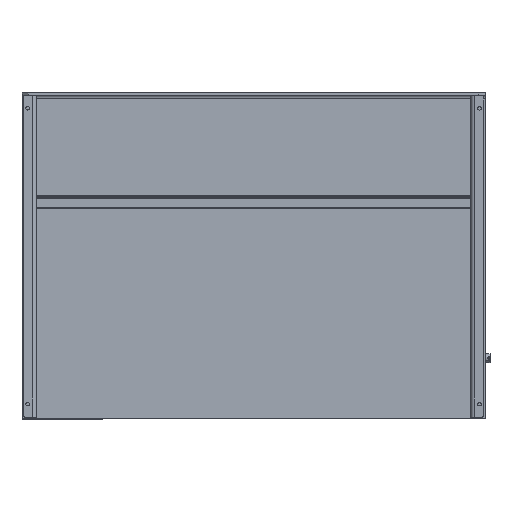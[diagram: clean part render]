
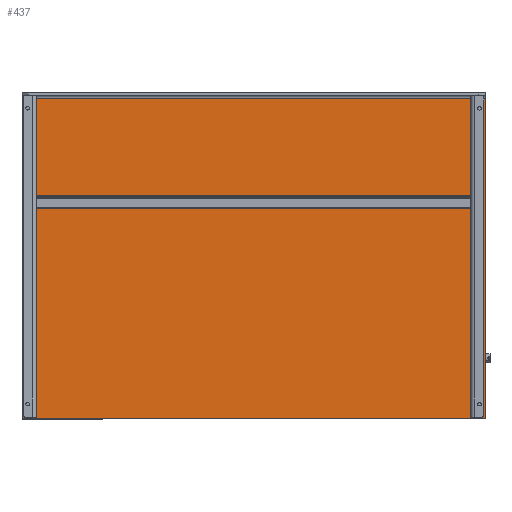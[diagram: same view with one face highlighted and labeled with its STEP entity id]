
A CAD part, front view. The second image highlights one B-rep face of the part: STEP entity #437.
In plain terms, the highlighted planar face has unit normal (0, -1, 0).
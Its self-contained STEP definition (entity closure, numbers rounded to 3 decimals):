
#307 = CARTESIAN_POINT ( 'NONE',  ( 25.053, 3.337, 21.662 ) ) ;
#437 = ADVANCED_FACE ( 'NONE', ( #25251 ), #93138, .T. ) ;
#5592 = CARTESIAN_POINT ( 'NONE',  ( -46.947, 3.337, -28.119 ) ) ;
#5843 = DIRECTION ( 'NONE',  ( 0., 0., 1. ) ) ;
#6912 = VERTEX_POINT ( 'NONE', #5592 ) ;
#6918 = CARTESIAN_POINT ( 'NONE',  ( -46.947, 3.337, -28.119 ) ) ;
#12129 = VECTOR ( 'NONE', #5843, 39.37 ) ;
#12467 = EDGE_CURVE ( 'NONE', #73190, #73950, #86768, .T. ) ;
#14368 = DIRECTION ( 'NONE',  ( -1., 0., 0. ) ) ;
#19237 = EDGE_CURVE ( 'NONE', #23229, #73190, #35492, .T. ) ;
#19376 = EDGE_CURVE ( 'NONE', #73950, #6912, #43606, .T. ) ;
#23229 = VERTEX_POINT ( 'NONE', #79469 ) ;
#24002 = VECTOR ( 'NONE', #14368, 39.37 ) ;
#24420 = CARTESIAN_POINT ( 'NONE',  ( 25.053, 3.337, -28.119 ) ) ;
#25251 = FACE_OUTER_BOUND ( 'NONE', #51172, .T. ) ;
#26629 = ORIENTED_EDGE ( 'NONE', *, *, #19376, .F. ) ;
#29275 = EDGE_CURVE ( 'NONE', #6912, #23229, #68592, .T. ) ;
#31526 = DIRECTION ( 'NONE',  ( 0., 0., -1. ) ) ;
#31685 = CARTESIAN_POINT ( 'NONE',  ( 25.053, 3.337, 22.506 ) ) ;
#35492 = LINE ( 'NONE', #79153, #89734 ) ;
#43606 = LINE ( 'NONE', #6918, #24002 ) ;
#47601 = VECTOR ( 'NONE', #83257, 39.37 ) ;
#50103 = CARTESIAN_POINT ( 'NONE',  ( -46.947, 3.337, 22.506 ) ) ;
#51172 = EDGE_LOOP ( 'NONE', ( #88073, #54590, #61385, #26629 ) ) ;
#54590 = ORIENTED_EDGE ( 'NONE', *, *, #19237, .F. ) ;
#57241 = DIRECTION ( 'NONE',  ( 1., 0., 0. ) ) ;
#61385 = ORIENTED_EDGE ( 'NONE', *, *, #29275, .F. ) ;
#68592 = LINE ( 'NONE', #50103, #12129 ) ;
#73190 = VERTEX_POINT ( 'NONE', #307 ) ;
#73950 = VERTEX_POINT ( 'NONE', #24420 ) ;
#79153 = CARTESIAN_POINT ( 'NONE',  ( -46.947, 3.337, 21.662 ) ) ;
#79469 = CARTESIAN_POINT ( 'NONE',  ( -46.947, 3.337, 21.662 ) ) ;
#80235 = DIRECTION ( 'NONE',  ( 0., -1., 0. ) ) ;
#80687 = CARTESIAN_POINT ( 'NONE',  ( -46.947, 3.337, -28.119 ) ) ;
#82612 = AXIS2_PLACEMENT_3D ( 'NONE', #80687, #80235, #31526 ) ;
#83257 = DIRECTION ( 'NONE',  ( 0., 0., -1. ) ) ;
#86768 = LINE ( 'NONE', #31685, #47601 ) ;
#88073 = ORIENTED_EDGE ( 'NONE', *, *, #12467, .F. ) ;
#89734 = VECTOR ( 'NONE', #57241, 39.37 ) ;
#93138 = PLANE ( 'NONE',  #82612 ) ;
